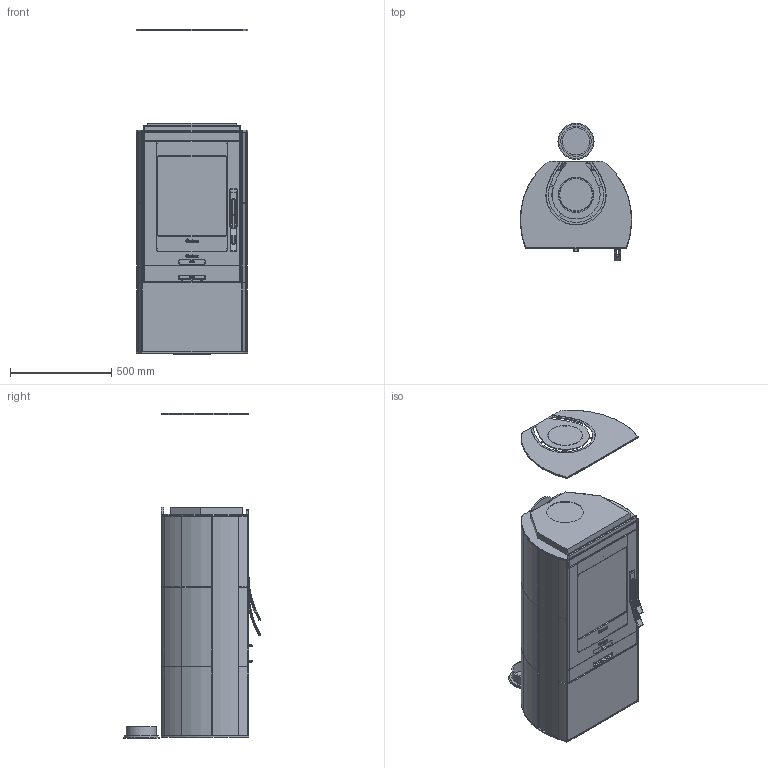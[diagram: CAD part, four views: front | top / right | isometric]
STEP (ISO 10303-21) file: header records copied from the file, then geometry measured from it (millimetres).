
FILE_DESCRIPTION( ( 'Unknown' ), '1' );
FILE_NAME( 'C:/Users/larsha/AppData/Roaming/Unigraphics Solutions/Solid Edge/Insight/insight/insight/interior models/C35T Low Assembly.stp', 'Unknown', ( 'Unknown' ), ( 'Unknown' ), 'PSStep 13.0', 'Unknown', ' ' );
FILE_SCHEMA( ( 'AUTOMOTIVE_DESIGN { 1 0 10303 214 1 1 1 1 }' ) );
Length unit declared in the file: millimetre
Products named in the file (26): Assem1; Side Glass C35Low; Lattice H34 H35; Plate For Sideglass C35Low; Insert H30; Rear Lid H34 H35; Vermiculite H30; Soapstone Set C35T Low; Foot C35Low; Glass H30; Lid; Rear C35TLow; Lid Lattice H34 H35; Fire H30; Bottom Cast Iron H30; Connection; Inside Shielding H35; Glass Top H35; Side Glass H35
Bounding box: 549.63 x 679.26 x 1608 mm (x, y, z)
Volume: 389391674.2 mm3; surface area: 21075235.1 mm2
Topology: 52 solids, 52 shells, 4227 faces, 10521 edges, 6437 vertices
Faces by surface type: plane 1695, cylinder 1142, bspline 610, extrusion 326, torus 284, sphere 90, cone 80
Full cylindrical faces by diameter (mm): 2.382 x12, 65 x2, 118 x2, 120 x2, 134 x3, 150 x3, 160 x2, 168 x2, 170 x7, 175 x2, 178 x3, 180 x2
Entity records: 118832 total; most frequent: CARTESIAN_POINT 54950, ORIENTED_EDGE 10240, DIRECTION 8831, EDGE_CURVE 5120, AXIS2_PLACEMENT_3D 3189, VERTEX_POINT 3184, VECTOR 2453, LINE 2290
